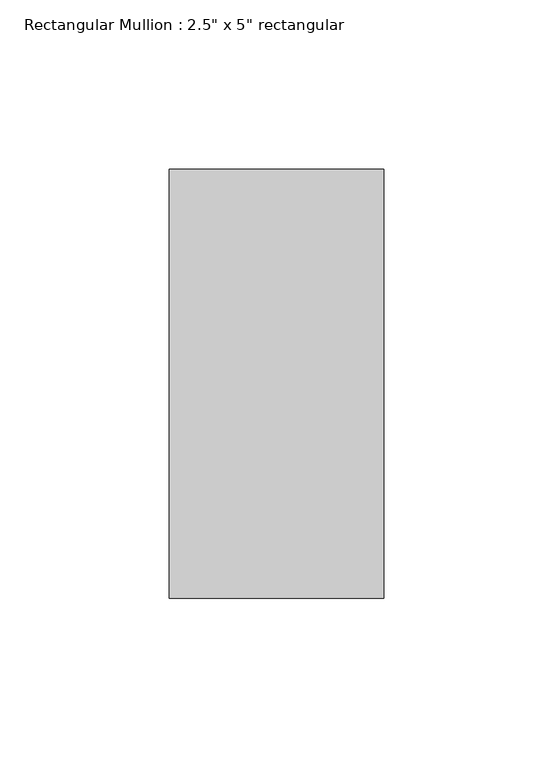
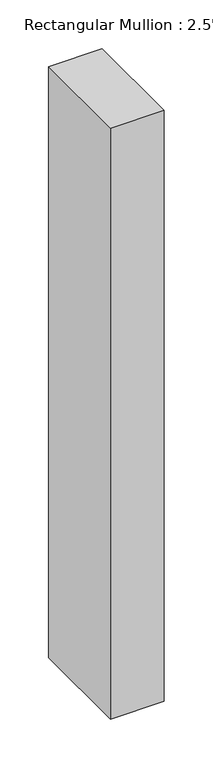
"""IFC4 building model written with IfcOpenShell, lengths in millimetres: member geometry."""

from ifc_helpers import new_model, si_unit, frame, origin, place, context, project, spatial, polyline, outline, extrude, source, transform, mapped, element, save


def member_e8635610(model_context):
    return source(origin(), model_context, "Body", "SweptSolid", [
        extrude(outline(polyline([(0.0, 63.5), (0.0, -63.5), (-63.5, -63.5), (-63.5, 63.5), (0.0, 63.5)])), frame((0.0, 0.0, -740.1977813), z_axis=(0.0, 0.0, 1.0), x_axis=(1.0, 0.0, 0.0)), (0.0, 0.0, 1.0), 740.1977813),
    ])


if __name__ == "__main__":
    model = new_model("IFC4")
    model_context = context("Model", 3, world=origin())
    ifc_project = project(units=[si_unit("LENGTHUNIT", "METRE", prefix="MILLI")], contexts=[model_context])
    site = spatial("IfcSite", under=ifc_project)
    building = spatial("IfcBuilding", under=site)
    placement = place(None, origin())
    member_shape = member_e8635610(model_context)
    element("IfcMember", 1, ObjectType="Rectangular Mullion : 2.5\" x 5\" rectangular", at=placement, inside=building, context=model_context, shape_type="MappedRepresentation", body=[
        mapped(member_shape, transform((0.0, 0.0, 0.0), x_axis=(1.0, 0.0, 0.0), y_axis=(0.0, 1.0, 0.0), z_axis=(0.0, 0.0, 1.0))),
    ])
    save(model, "model.ifc")
